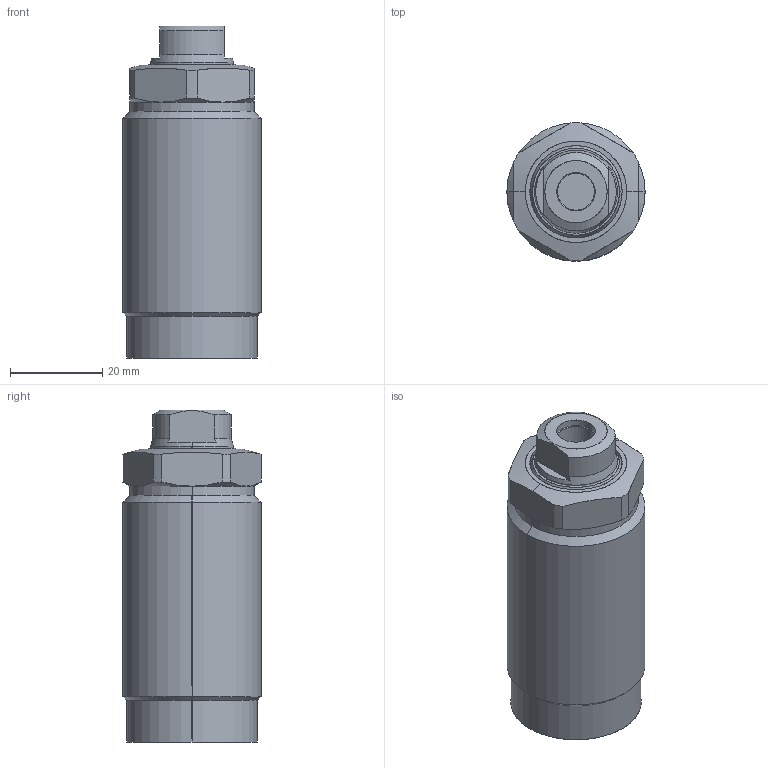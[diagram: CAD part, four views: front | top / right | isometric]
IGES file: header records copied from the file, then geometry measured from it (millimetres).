
Start section: SolidWorks IGES file using analytic representation for surfaces
Global section: file name: D:\abhilash\nijil\cylinder\Clasys1\dp converted\04\pt\0403\0102-0403.IGS; native system: SolidWorks 2010; preprocessor: SolidWorks 2010; author: nidheesh; date: 130730.113452; units: millimetre
Bounding box: 30 x 30 x 72 mm (x, y, z)
Surface area: 9501.4 mm2 (no closed solid volume)
Topology: 0 solids, 0 shells, 74 faces, 984 edges, 984 vertices
Faces by surface type: revolution 50, bspline 24
